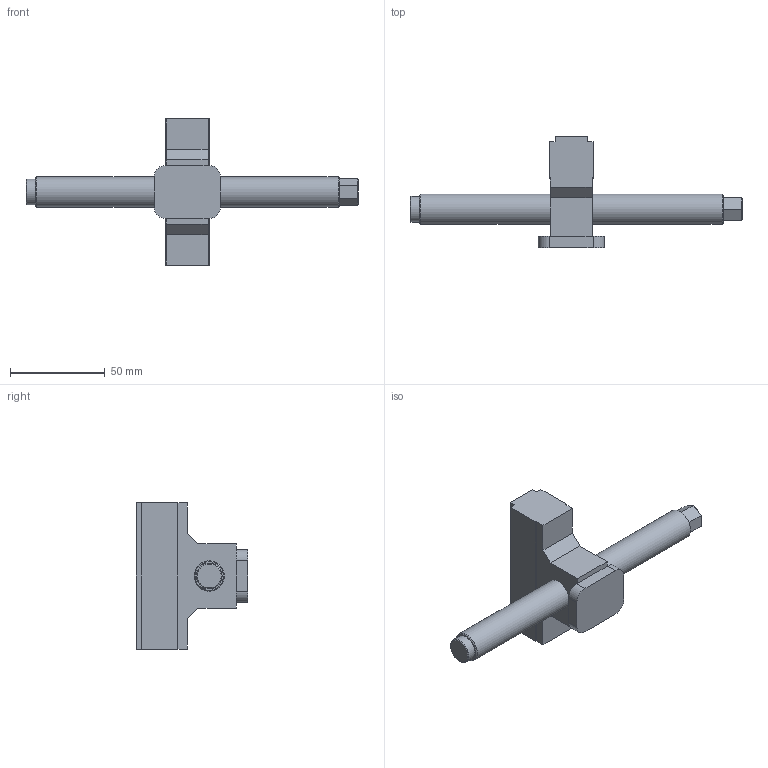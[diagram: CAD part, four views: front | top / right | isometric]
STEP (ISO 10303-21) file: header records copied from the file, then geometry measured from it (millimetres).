
FILE_DESCRIPTION (( 'STEP AP214' ), '1' );
FILE_NAME ('48160-TG7717.STEP', '2020-03-24T14:45:06', ( '' ), ( '' ), 'SwSTEP 2.0', 'SolidWorks 2019', '' );
FILE_SCHEMA (( 'AUTOMOTIVE_DESIGN' ));
Length unit declared in the file: millimetre
Products named in the file (1): 48160-TG7717
Bounding box: 175 x 58.8 x 77 mm (x, y, z)
Volume: 101172.5 mm3; surface area: 20742.2 mm2
Topology: 1 solids, 1 shells, 67 faces, 163 edges, 103 vertices
Faces by surface type: plane 57, cylinder 7, cone 3
Full cylindrical faces by diameter (mm): 13.5 x1, 16 x2
Entity records: 2410 total; most frequent: CARTESIAN_POINT 324, ORIENTED_EDGE 310, DIRECTION 308, EDGE_CURVE 155, VECTOR 138, LINE 138, VERTEX_POINT 101, AXIS2_PLACEMENT_3D 85
